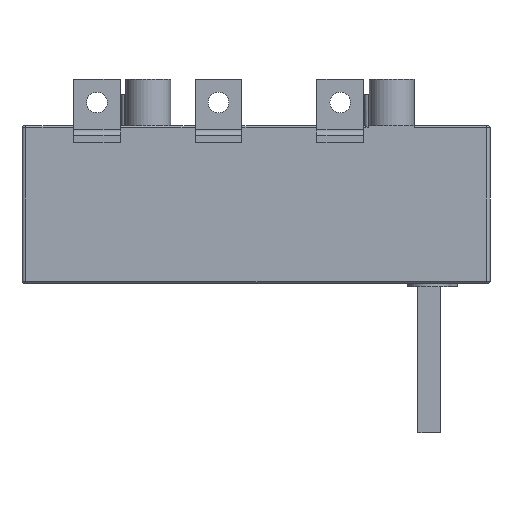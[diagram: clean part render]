
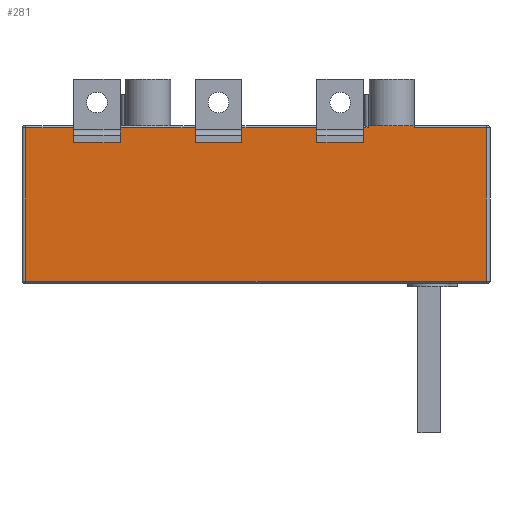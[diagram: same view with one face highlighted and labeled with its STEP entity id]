
A CAD part, front view. The second image highlights one B-rep face of the part: STEP entity #281.
In plain terms, the highlighted planar face has unit normal (0, -1, 0).
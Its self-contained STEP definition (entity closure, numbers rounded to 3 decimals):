
#281=ADVANCED_FACE('',(#619),#499,.T.);
#499=PLANE('',#3942);
#619=FACE_OUTER_BOUND('',#771,.T.);
#771=EDGE_LOOP('',(#1307,#1308,#1309,#1310,#1311,#1312,#1313,#1314,#1315,
#1316,#1317,#1318,#1319,#1320,#1321,#1322,#1323,#1324,#1325,#1326,#1327,
#1328,#1329,#1330,#1331,#1332,#1333,#1334));
#1307=ORIENTED_EDGE('',*,*,#2745,.T.);
#1308=ORIENTED_EDGE('',*,*,#2746,.T.);
#1309=ORIENTED_EDGE('',*,*,#2692,.T.);
#1310=ORIENTED_EDGE('',*,*,#2747,.T.);
#1311=ORIENTED_EDGE('',*,*,#2748,.F.);
#1312=ORIENTED_EDGE('',*,*,#2749,.F.);
#1313=ORIENTED_EDGE('',*,*,#2750,.F.);
#1314=ORIENTED_EDGE('',*,*,#2751,.F.);
#1315=ORIENTED_EDGE('',*,*,#2752,.T.);
#1316=ORIENTED_EDGE('',*,*,#2753,.T.);
#1317=ORIENTED_EDGE('',*,*,#2754,.F.);
#1318=ORIENTED_EDGE('',*,*,#2755,.F.);
#1319=ORIENTED_EDGE('',*,*,#2756,.F.);
#1320=ORIENTED_EDGE('',*,*,#2757,.F.);
#1321=ORIENTED_EDGE('',*,*,#2758,.T.);
#1322=ORIENTED_EDGE('',*,*,#2759,.T.);
#1323=ORIENTED_EDGE('',*,*,#2760,.F.);
#1324=ORIENTED_EDGE('',*,*,#2761,.T.);
#1325=ORIENTED_EDGE('',*,*,#2762,.T.);
#1326=ORIENTED_EDGE('',*,*,#2763,.T.);
#1327=ORIENTED_EDGE('',*,*,#2764,.T.);
#1328=ORIENTED_EDGE('',*,*,#2765,.F.);
#1329=ORIENTED_EDGE('',*,*,#2766,.F.);
#1330=ORIENTED_EDGE('',*,*,#2767,.T.);
#1331=ORIENTED_EDGE('',*,*,#2768,.T.);
#1332=ORIENTED_EDGE('',*,*,#2769,.T.);
#1333=ORIENTED_EDGE('',*,*,#2696,.F.);
#1334=ORIENTED_EDGE('',*,*,#2770,.T.);
#2324=VERTEX_POINT('',#5490);
#2328=VERTEX_POINT('',#5498);
#2332=VERTEX_POINT('',#5507);
#2333=VERTEX_POINT('',#5509);
#2379=VERTEX_POINT('',#5615);
#2380=VERTEX_POINT('',#5616);
#2381=VERTEX_POINT('',#5619);
#2382=VERTEX_POINT('',#5621);
#2383=VERTEX_POINT('',#5623);
#2384=VERTEX_POINT('',#5625);
#2385=VERTEX_POINT('',#5627);
#2386=VERTEX_POINT('',#5629);
#2387=VERTEX_POINT('',#5631);
#2388=VERTEX_POINT('',#5633);
#2389=VERTEX_POINT('',#5635);
#2390=VERTEX_POINT('',#5637);
#2391=VERTEX_POINT('',#5639);
#2392=VERTEX_POINT('',#5641);
#2393=VERTEX_POINT('',#5643);
#2394=VERTEX_POINT('',#5645);
#2395=VERTEX_POINT('',#5647);
#2396=VERTEX_POINT('',#5649);
#2397=VERTEX_POINT('',#5651);
#2398=VERTEX_POINT('',#5653);
#2399=VERTEX_POINT('',#5655);
#2400=VERTEX_POINT('',#5657);
#2401=VERTEX_POINT('',#5659);
#2402=VERTEX_POINT('',#5661);
#2692=EDGE_CURVE('',#2324,#2328,#3228,.T.);
#2696=EDGE_CURVE('',#2332,#2333,#3231,.T.);
#2745=EDGE_CURVE('',#2379,#2380,#3269,.T.);
#2746=EDGE_CURVE('',#2380,#2324,#3270,.T.);
#2747=EDGE_CURVE('',#2328,#2381,#3271,.T.);
#2748=EDGE_CURVE('',#2382,#2381,#3272,.T.);
#2749=EDGE_CURVE('',#2383,#2382,#3273,.T.);
#2750=EDGE_CURVE('',#2384,#2383,#3274,.T.);
#2751=EDGE_CURVE('',#2385,#2384,#3275,.T.);
#2752=EDGE_CURVE('',#2385,#2386,#3276,.T.);
#2753=EDGE_CURVE('',#2386,#2387,#3277,.T.);
#2754=EDGE_CURVE('',#2388,#2387,#3278,.T.);
#2755=EDGE_CURVE('',#2389,#2388,#3279,.T.);
#2756=EDGE_CURVE('',#2390,#2389,#3280,.T.);
#2757=EDGE_CURVE('',#2391,#2390,#3281,.T.);
#2758=EDGE_CURVE('',#2391,#2392,#3282,.T.);
#2759=EDGE_CURVE('',#2392,#2393,#3283,.T.);
#2760=EDGE_CURVE('',#2394,#2393,#3284,.T.);
#2761=EDGE_CURVE('',#2394,#2395,#3285,.T.);
#2762=EDGE_CURVE('',#2395,#2396,#3286,.T.);
#2763=EDGE_CURVE('',#2396,#2397,#3287,.T.);
#2764=EDGE_CURVE('',#2397,#2398,#3288,.T.);
#2765=EDGE_CURVE('',#2399,#2398,#3289,.T.);
#2766=EDGE_CURVE('',#2400,#2399,#3290,.T.);
#2767=EDGE_CURVE('',#2400,#2401,#3291,.T.);
#2768=EDGE_CURVE('',#2401,#2402,#3292,.T.);
#2769=EDGE_CURVE('',#2402,#2333,#3293,.T.);
#2770=EDGE_CURVE('',#2332,#2379,#3294,.T.);
#3228=LINE('',#5499,#3564);
#3231=LINE('',#5508,#3567);
#3269=LINE('',#5614,#3605);
#3270=LINE('',#5617,#3606);
#3271=LINE('',#5618,#3607);
#3272=LINE('',#5620,#3608);
#3273=LINE('',#5622,#3609);
#3274=LINE('',#5624,#3610);
#3275=LINE('',#5626,#3611);
#3276=LINE('',#5628,#3612);
#3277=LINE('',#5630,#3613);
#3278=LINE('',#5632,#3614);
#3279=LINE('',#5634,#3615);
#3280=LINE('',#5636,#3616);
#3281=LINE('',#5638,#3617);
#3282=LINE('',#5640,#3618);
#3283=LINE('',#5642,#3619);
#3284=LINE('',#5644,#3620);
#3285=LINE('',#5646,#3621);
#3286=LINE('',#5648,#3622);
#3287=LINE('',#5650,#3623);
#3288=LINE('',#5652,#3624);
#3289=LINE('',#5654,#3625);
#3290=LINE('',#5656,#3626);
#3291=LINE('',#5658,#3627);
#3292=LINE('',#5660,#3628);
#3293=LINE('',#5662,#3629);
#3294=LINE('',#5663,#3630);
#3564=VECTOR('',#4335,1.);
#3567=VECTOR('',#4342,1.);
#3605=VECTOR('',#4424,1.);
#3606=VECTOR('',#4425,1.);
#3607=VECTOR('',#4426,1.);
#3608=VECTOR('',#4427,1.);
#3609=VECTOR('',#4428,1.);
#3610=VECTOR('',#4429,1.);
#3611=VECTOR('',#4430,1.);
#3612=VECTOR('',#4431,1.);
#3613=VECTOR('',#4432,1.);
#3614=VECTOR('',#4433,1.);
#3615=VECTOR('',#4434,1.);
#3616=VECTOR('',#4435,1.);
#3617=VECTOR('',#4436,1.);
#3618=VECTOR('',#4437,1.);
#3619=VECTOR('',#4438,1.);
#3620=VECTOR('',#4439,1.);
#3621=VECTOR('',#4440,1.);
#3622=VECTOR('',#4441,1.);
#3623=VECTOR('',#4442,1.);
#3624=VECTOR('',#4443,1.);
#3625=VECTOR('',#4444,1.);
#3626=VECTOR('',#4445,1.);
#3627=VECTOR('',#4446,1.);
#3628=VECTOR('',#4447,1.);
#3629=VECTOR('',#4448,1.);
#3630=VECTOR('',#4449,1.);
#3942=AXIS2_PLACEMENT_3D('',#5664,#4450,#4451);
#4335=DIRECTION('',(0.,0.,1.));
#4342=DIRECTION('',(0.,0.,1.));
#4424=DIRECTION('',(-1.,0.,0.));
#4425=DIRECTION('',(0.,0.,1.));
#4426=DIRECTION('',(-1.,0.,0.));
#4427=DIRECTION('',(0.,0.,1.));
#4428=DIRECTION('',(0.,0.,1.));
#4429=DIRECTION('',(1.,0.,0.));
#4430=DIRECTION('',(0.,0.,-1.));
#4431=DIRECTION('',(0.,0.,1.));
#4432=DIRECTION('',(-1.,0.,0.));
#4433=DIRECTION('',(0.,0.,1.));
#4434=DIRECTION('',(0.,0.,1.));
#4435=DIRECTION('',(1.,0.,0.));
#4436=DIRECTION('',(0.,0.,-1.));
#4437=DIRECTION('',(0.,0.,1.));
#4438=DIRECTION('',(-1.,0.,0.));
#4439=DIRECTION('',(0.,0.,1.));
#4440=DIRECTION('',(1.,0.,0.));
#4441=DIRECTION('',(0.,0.,1.));
#4442=DIRECTION('',(-1.,0.,0.));
#4443=DIRECTION('',(0.,0.,1.));
#4444=DIRECTION('',(1.,0.,0.));
#4445=DIRECTION('',(0.,0.,-1.));
#4446=DIRECTION('',(-1.,0.,0.));
#4447=DIRECTION('',(0.,0.,-1.));
#4448=DIRECTION('',(-1.,0.,0.));
#4449=DIRECTION('',(0.,0.,-1.));
#4450=DIRECTION('',(0.,-1.,0.));
#4451=DIRECTION('',(1.,0.,0.));
#5490=CARTESIAN_POINT('',(-40.,-52.5,-5.));
#5498=CARTESIAN_POINT('',(-40.,-52.5,-1.));
#5499=CARTESIAN_POINT('',(-40.,-52.5,-9.));
#5507=CARTESIAN_POINT('',(-15.,-52.5,-5.));
#5508=CARTESIAN_POINT('',(-15.,-52.5,-9.));
#5509=CARTESIAN_POINT('',(-15.,-52.5,-1.));
#5614=CARTESIAN_POINT('',(-40.,-52.5,-9.));
#5615=CARTESIAN_POINT('',(-15.,-52.5,-9.));
#5616=CARTESIAN_POINT('',(-40.,-52.5,-9.));
#5617=CARTESIAN_POINT('',(-40.,-52.5,-9.));
#5618=CARTESIAN_POINT('',(-195.5,-52.5,-1.));
#5619=CARTESIAN_POINT('',(-80.,-52.5,-1.));
#5620=CARTESIAN_POINT('',(-80.,-52.5,-9.));
#5621=CARTESIAN_POINT('',(-80.,-52.5,-5.));
#5622=CARTESIAN_POINT('',(-80.,-52.5,-9.));
#5623=CARTESIAN_POINT('',(-80.,-52.5,-9.));
#5624=CARTESIAN_POINT('',(-105.,-52.5,-9.));
#5625=CARTESIAN_POINT('',(-105.,-52.5,-9.));
#5626=CARTESIAN_POINT('',(-105.,-52.5,-9.));
#5627=CARTESIAN_POINT('',(-105.,-52.5,-5.));
#5628=CARTESIAN_POINT('',(-105.,-52.5,-9.));
#5629=CARTESIAN_POINT('',(-105.,-52.5,-1.));
#5630=CARTESIAN_POINT('',(-195.5,-52.5,-1.));
#5631=CARTESIAN_POINT('',(-145.,-52.5,-1.));
#5632=CARTESIAN_POINT('',(-145.,-52.5,-9.));
#5633=CARTESIAN_POINT('',(-145.,-52.5,-5.));
#5634=CARTESIAN_POINT('',(-145.,-52.5,-9.));
#5635=CARTESIAN_POINT('',(-145.,-52.5,-9.));
#5636=CARTESIAN_POINT('',(-170.,-52.5,-9.));
#5637=CARTESIAN_POINT('',(-170.,-52.5,-9.));
#5638=CARTESIAN_POINT('',(-170.,-52.5,-9.));
#5639=CARTESIAN_POINT('',(-170.,-52.5,-5.));
#5640=CARTESIAN_POINT('',(-170.,-52.5,-9.));
#5641=CARTESIAN_POINT('',(-170.,-52.5,-1.));
#5642=CARTESIAN_POINT('',(-195.5,-52.5,-1.));
#5643=CARTESIAN_POINT('',(-195.5,-52.5,-1.));
#5644=CARTESIAN_POINT('',(-195.5,-52.5,-84.));
#5645=CARTESIAN_POINT('',(-195.5,-52.5,-83.));
#5646=CARTESIAN_POINT('',(-12.,-52.5,-83.));
#5647=CARTESIAN_POINT('',(50.5,-52.5,-83.));
#5648=CARTESIAN_POINT('',(50.5,-52.5,-84.));
#5649=CARTESIAN_POINT('',(50.5,-52.5,-1.));
#5650=CARTESIAN_POINT('',(12.,-52.5,-1.));
#5651=CARTESIAN_POINT('',(12.,-52.5,-1.));
#5652=CARTESIAN_POINT('',(12.,-52.5,4.));
#5653=CARTESIAN_POINT('',(12.,-52.5,0.));
#5654=CARTESIAN_POINT('',(50.5,-52.5,0.));
#5655=CARTESIAN_POINT('',(-12.,-52.5,0.));
#5656=CARTESIAN_POINT('',(-12.,-52.5,25.));
#5657=CARTESIAN_POINT('',(-12.,-52.5,17.));
#5658=CARTESIAN_POINT('',(7.5,-52.5,17.));
#5659=CARTESIAN_POINT('',(-12.5,-52.5,17.));
#5660=CARTESIAN_POINT('',(-12.5,-52.5,4.));
#5661=CARTESIAN_POINT('',(-12.5,-52.5,-1.));
#5662=CARTESIAN_POINT('',(-195.5,-52.5,-1.));
#5663=CARTESIAN_POINT('',(-15.,-52.5,-9.));
#5664=CARTESIAN_POINT('',(-12.,-52.5,4.));
